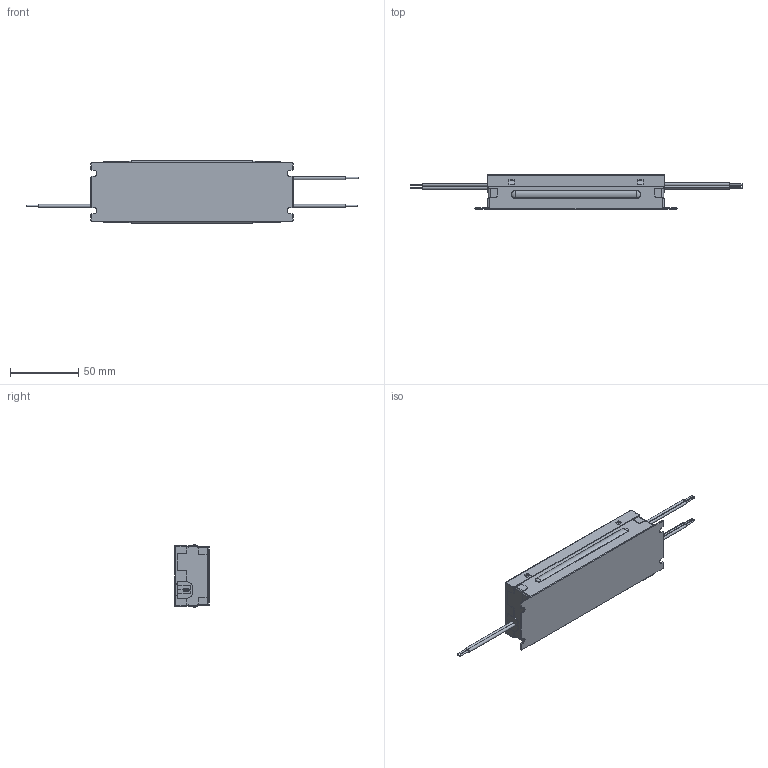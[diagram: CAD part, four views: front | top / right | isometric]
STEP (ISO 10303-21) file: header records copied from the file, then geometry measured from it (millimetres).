
FILE_DESCRIPTION (( 'STEP AP203' ), '1' );
FILE_NAME ('3D_USVI-060012DG.STEP', '2019-03-07T11:58:28', ( '' ), ( '' ), 'SwSTEP 2.0', 'SolidWorks 2016', '' );
FILE_SCHEMA (( 'CONFIG_CONTROL_DESIGN' ));
Length unit declared in the file: millimetre
Products named in the file (10): Blue wire; Gray wire; Black wire; SA Cover-1吋05T; SR (2 Wires); SA Base-1吋-05T; Purple wire; White wire; 3D_USVI-060012DG; Red wire
Assembly tree (11 placements, depth 2):
  3D_USVI-060012DG
    SA Base-1吋-05T
    SR (2 Wires)  x3
    Black wire
    White wire
    Blue wire
    Red wire
    SA Cover-1吋05T
    Purple wire
    Gray wire
Bounding box: 243.4 x 25.4 x 45.6 mm (x, y, z)
Volume: 13876.3 mm3; surface area: 52603.2 mm2
Topology: 11 solids, 11 shells, 672 faces, 1788 edges, 1136 vertices
Faces by surface type: plane 482, cylinder 174, sphere 8, torus 8
Entity records: 19348 total; most frequent: CARTESIAN_POINT 3290, ORIENTED_EDGE 3144, DIRECTION 3100, EDGE_CURVE 1572, VECTOR 1192, LINE 1192, VERTEX_POINT 992, AXIS2_PLACEMENT_3D 954
